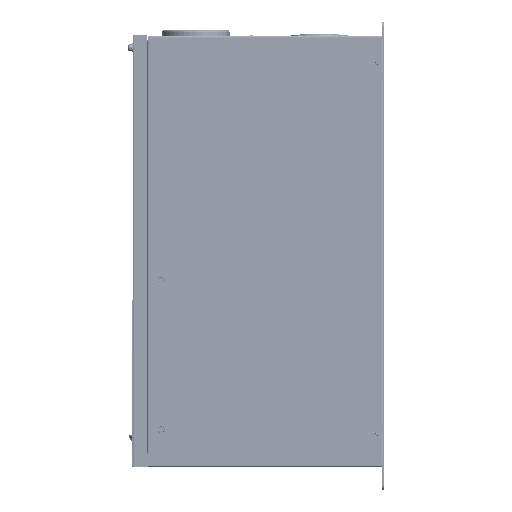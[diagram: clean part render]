
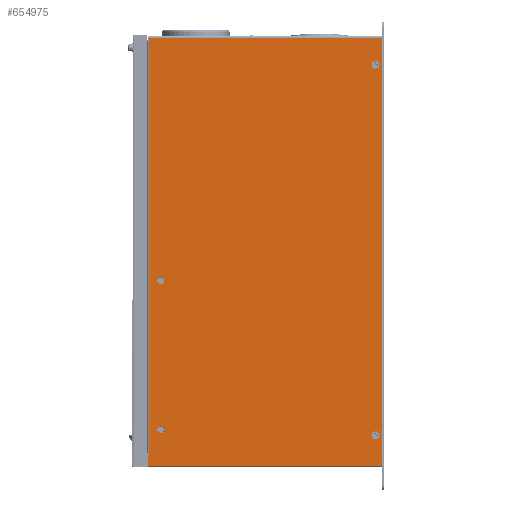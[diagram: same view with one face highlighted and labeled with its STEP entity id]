
A CAD part, left-side view. The second image highlights one B-rep face of the part: STEP entity #654975.
In plain terms, the highlighted planar face has unit normal (-1, 0, 0).
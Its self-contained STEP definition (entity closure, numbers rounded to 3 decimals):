
#642178=DIRECTION('',(0.,-1.,0.));
#642179=VECTOR('',#642178,235.8);
#642180=CARTESIAN_POINT('',(-87.7,238.,215.4));
#642181=LINE('',#642180,#642179);
#642947=DIRECTION('',(0.,0.,1.));
#642948=VECTOR('',#642947,2.);
#642949=CARTESIAN_POINT('',(-87.7,236.6,211.6));
#642950=LINE('',#642949,#642948);
#642954=DIRECTION('',(0.,-1.,0.));
#642955=VECTOR('',#642954,1.4);
#642956=CARTESIAN_POINT('',(-87.7,238.,213.6));
#642957=LINE('',#642956,#642955);
#642961=DIRECTION('',(0.,0.,-1.));
#642962=VECTOR('',#642961,1.8);
#642963=CARTESIAN_POINT('',(-87.7,238.,215.4));
#642964=LINE('',#642963,#642962);
#642968=DIRECTION('',(0.,0.,1.));
#642969=VECTOR('',#642968,430.8);
#642970=CARTESIAN_POINT('',(-87.7,2.2,-215.4));
#642971=LINE('',#642970,#642969);
#642975=DIRECTION('',(0.,0.,-1.));
#642976=VECTOR('',#642975,10.6);
#642977=CARTESIAN_POINT('',(-87.7,238.,-204.8));
#642978=LINE('',#642977,#642976);
#642982=DIRECTION('',(0.,-1.,0.));
#642983=VECTOR('',#642982,1.4);
#642984=CARTESIAN_POINT('',(-87.7,238.,-204.8));
#642985=LINE('',#642984,#642983);
#642989=DIRECTION('',(0.,0.,-1.));
#642990=VECTOR('',#642989,2.);
#642991=CARTESIAN_POINT('',(-87.7,236.6,-202.8));
#642992=LINE('',#642991,#642990);
#642996=CARTESIAN_POINT('',(-87.7,8.5,188.));
#642997=DIRECTION('',(1.,0.,0.));
#642998=DIRECTION('',(0.,1.,0.));
#642999=AXIS2_PLACEMENT_3D('',#642996,#642997,#642998);
#643004=CARTESIAN_POINT('',(-87.7,8.5,188.));
#643005=DIRECTION('',(1.,0.,0.));
#643006=DIRECTION('',(0.,-1.,0.));
#643007=AXIS2_PLACEMENT_3D('',#643004,#643005,#643006);
#643012=CARTESIAN_POINT('',(-87.7,8.5,-185.));
#643013=DIRECTION('',(1.,0.,0.));
#643014=DIRECTION('',(0.,-1.,0.));
#643015=AXIS2_PLACEMENT_3D('',#643012,#643013,#643014);
#643020=CARTESIAN_POINT('',(-87.7,8.5,-185.));
#643021=DIRECTION('',(1.,0.,0.));
#643022=DIRECTION('',(0.,1.,0.));
#643023=AXIS2_PLACEMENT_3D('',#643020,#643021,#643022);
#643028=CARTESIAN_POINT('',(-87.7,224.5,-29.4));
#643029=DIRECTION('',(1.,0.,0.));
#643030=DIRECTION('',(0.,1.,0.));
#643031=AXIS2_PLACEMENT_3D('',#643028,#643029,#643030);
#643036=CARTESIAN_POINT('',(-87.7,224.5,-29.4));
#643037=DIRECTION('',(1.,0.,0.));
#643038=DIRECTION('',(0.,-1.,0.));
#643039=AXIS2_PLACEMENT_3D('',#643036,#643037,#643038);
#643044=CARTESIAN_POINT('',(-87.7,224.5,-179.4));
#643045=DIRECTION('',(1.,0.,0.));
#643046=DIRECTION('',(0.,-1.,0.));
#643047=AXIS2_PLACEMENT_3D('',#643044,#643045,#643046);
#643052=CARTESIAN_POINT('',(-87.7,224.5,-179.4));
#643053=DIRECTION('',(1.,0.,0.));
#643054=DIRECTION('',(0.,1.,0.));
#643055=AXIS2_PLACEMENT_3D('',#643052,#643053,#643054);
#643096=DIRECTION('',(0.,1.,0.));
#643097=VECTOR('',#643096,235.8);
#643098=CARTESIAN_POINT('',(-87.7,2.2,-215.4));
#643099=LINE('',#643098,#643097);
#651635=DIRECTION('',(0.,0.,1.));
#651636=VECTOR('',#651635,414.4);
#651637=CARTESIAN_POINT('',(-87.7,236.6,-202.8));
#651638=LINE('',#651637,#651636);
#652610=CARTESIAN_POINT('',(-87.7,2.2,215.4));
#652612=VERTEX_POINT('',#652610);
#652614=CARTESIAN_POINT('',(-87.7,238.,215.4));
#652616=VERTEX_POINT('',#652614);
#652626=CARTESIAN_POINT('',(-87.7,238.,-215.4));
#652628=VERTEX_POINT('',#652626);
#652630=CARTESIAN_POINT('',(-87.7,2.2,-215.4));
#652632=VERTEX_POINT('',#652630);
#653895=CARTESIAN_POINT('',(-87.7,236.6,-202.8));
#653896=CARTESIAN_POINT('',(-87.7,236.6,-204.8));
#653897=VERTEX_POINT('',#653895);
#653898=VERTEX_POINT('',#653896);
#653899=CARTESIAN_POINT('',(-87.7,238.,-204.8));
#653900=VERTEX_POINT('',#653899);
#653907=CARTESIAN_POINT('',(-87.7,236.6,211.6));
#653908=CARTESIAN_POINT('',(-87.7,236.6,213.6));
#653909=VERTEX_POINT('',#653907);
#653910=VERTEX_POINT('',#653908);
#653911=CARTESIAN_POINT('',(-87.7,238.,213.6));
#653912=VERTEX_POINT('',#653911);
#654325=CARTESIAN_POINT('',(-87.7,12.35,188.));
#654326=CARTESIAN_POINT('',(-87.7,4.65,188.));
#654327=VERTEX_POINT('',#654325);
#654328=VERTEX_POINT('',#654326);
#654333=CARTESIAN_POINT('',(-87.7,4.65,-185.));
#654334=CARTESIAN_POINT('',(-87.7,12.35,-185.));
#654335=VERTEX_POINT('',#654333);
#654336=VERTEX_POINT('',#654334);
#654381=CARTESIAN_POINT('',(-87.7,228.1,-29.4));
#654382=CARTESIAN_POINT('',(-87.7,220.9,-29.4));
#654383=VERTEX_POINT('',#654381);
#654384=VERTEX_POINT('',#654382);
#654389=CARTESIAN_POINT('',(-87.7,220.9,-179.4));
#654390=CARTESIAN_POINT('',(-87.7,228.1,-179.4));
#654391=VERTEX_POINT('',#654389);
#654392=VERTEX_POINT('',#654390);
#654930=CARTESIAN_POINT('',(-87.7,0.,0.));
#654931=DIRECTION('',(-1.,0.,0.));
#654932=DIRECTION('',(0.,0.,1.));
#654933=AXIS2_PLACEMENT_3D('',#654930,#654931,#654932);
#654934=PLANE('',#654933);
#654935=ORIENTED_EDGE('',*,*,#654910,.T.);
#654936=ORIENTED_EDGE('',*,*,#654924,.F.);
#654937=ORIENTED_EDGE('',*,*,#654834,.F.);
#654938=ORIENTED_EDGE('',*,*,#654426,.T.);
#654940=ORIENTED_EDGE('',*,*,#654939,.F.);
#654942=ORIENTED_EDGE('',*,*,#654941,.T.);
#654943=ORIENTED_EDGE('',*,*,#654815,.F.);
#654944=ORIENTED_EDGE('',*,*,#654848,.T.);
#654946=ORIENTED_EDGE('',*,*,#654945,.F.);
#654948=ORIENTED_EDGE('',*,*,#654947,.T.);
#654949=EDGE_LOOP('',(#654935,#654936,#654937,#654938,#654940,#654942,#654943,
#654944,#654946,#654948));
#654950=FACE_OUTER_BOUND('',#654949,.F.);
#654952=ORIENTED_EDGE('',*,*,#654951,.F.);
#654954=ORIENTED_EDGE('',*,*,#654953,.F.);
#654955=EDGE_LOOP('',(#654952,#654954));
#654956=FACE_BOUND('',#654955,.F.);
#654958=ORIENTED_EDGE('',*,*,#654957,.F.);
#654960=ORIENTED_EDGE('',*,*,#654959,.F.);
#654961=EDGE_LOOP('',(#654958,#654960));
#654962=FACE_BOUND('',#654961,.F.);
#654964=ORIENTED_EDGE('',*,*,#654963,.F.);
#654966=ORIENTED_EDGE('',*,*,#654965,.F.);
#654967=EDGE_LOOP('',(#654964,#654966));
#654968=FACE_BOUND('',#654967,.F.);
#654970=ORIENTED_EDGE('',*,*,#654969,.F.);
#654972=ORIENTED_EDGE('',*,*,#654971,.F.);
#654973=EDGE_LOOP('',(#654970,#654972));
#654974=FACE_BOUND('',#654973,.F.);
#643000=CIRCLE('',#642999,3.85);
#643008=CIRCLE('',#643007,3.85);
#643016=CIRCLE('',#643015,3.85);
#643024=CIRCLE('',#643023,3.85);
#643032=CIRCLE('',#643031,3.6);
#643040=CIRCLE('',#643039,3.6);
#643048=CIRCLE('',#643047,3.6);
#643056=CIRCLE('',#643055,3.6);
#654426=EDGE_CURVE('',#652616,#652612,#642181,.T.);
#654815=EDGE_CURVE('',#653900,#652628,#642978,.T.);
#654834=EDGE_CURVE('',#652616,#653912,#642964,.T.);
#654848=EDGE_CURVE('',#653900,#653898,#642985,.T.);
#654910=EDGE_CURVE('',#653909,#653910,#642950,.T.);
#654924=EDGE_CURVE('',#653912,#653910,#642957,.T.);
#654939=EDGE_CURVE('',#652632,#652612,#642971,.T.);
#654941=EDGE_CURVE('',#652632,#652628,#643099,.T.);
#654945=EDGE_CURVE('',#653897,#653898,#642992,.T.);
#654947=EDGE_CURVE('',#653897,#653909,#651638,.T.);
#654951=EDGE_CURVE('',#654327,#654328,#643000,.T.);
#654953=EDGE_CURVE('',#654328,#654327,#643008,.T.);
#654957=EDGE_CURVE('',#654335,#654336,#643016,.T.);
#654959=EDGE_CURVE('',#654336,#654335,#643024,.T.);
#654963=EDGE_CURVE('',#654383,#654384,#643032,.T.);
#654965=EDGE_CURVE('',#654384,#654383,#643040,.T.);
#654969=EDGE_CURVE('',#654391,#654392,#643048,.T.);
#654971=EDGE_CURVE('',#654392,#654391,#643056,.T.);
#654975=ADVANCED_FACE('',(#654950,#654956,#654962,#654968,#654974),#654934,.T.);
